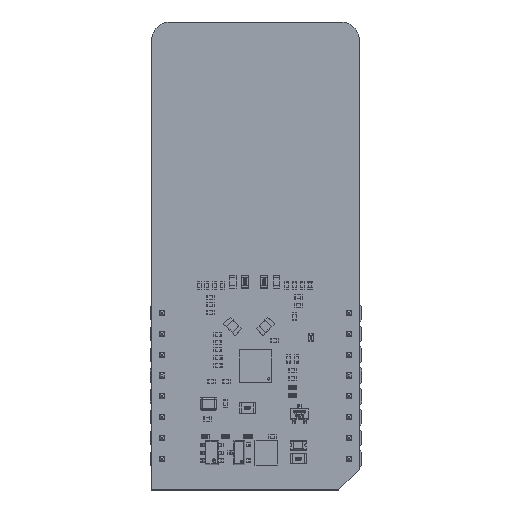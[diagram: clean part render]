
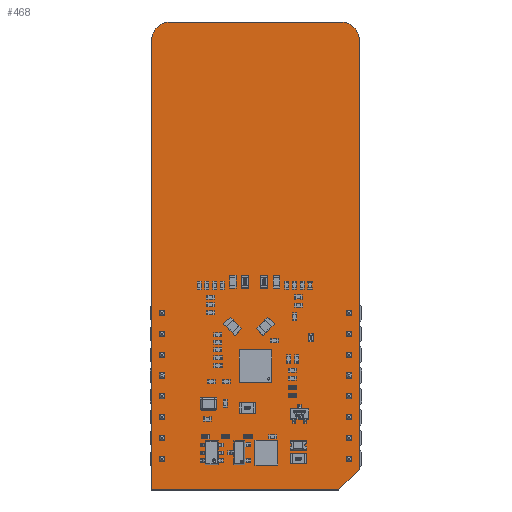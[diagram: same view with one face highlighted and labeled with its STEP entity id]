
A CAD part, top view. The second image highlights one B-rep face of the part: STEP entity #468.
In plain terms, the highlighted planar face has unit normal (0, 0, 1).
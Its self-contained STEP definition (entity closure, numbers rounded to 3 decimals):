
#239 = VERTEX_POINT('',#240);
#240 = CARTESIAN_POINT('',(-1.27,-3.81,0.));
#246 = EDGE_CURVE('',#239,#247,#249,.T.);
#247 = VERTEX_POINT('',#248);
#248 = CARTESIAN_POINT('',(-1.27,51.054,0.));
#249 = LINE('',#250,#251);
#250 = CARTESIAN_POINT('',(-1.27,-3.81,0.));
#251 = VECTOR('',#252,1.);
#252 = DIRECTION('',(0.,1.,0.));
#277 = EDGE_CURVE('',#247,#278,#280,.T.);
#278 = VERTEX_POINT('',#279);
#279 = CARTESIAN_POINT('',(1.016,53.34,0.));
#280 = CIRCLE('',#281,2.288);
#281 = AXIS2_PLACEMENT_3D('',#282,#283,#284);
#282 = CARTESIAN_POINT('',(1.018,51.052,0.));
#283 = DIRECTION('',(0.,0.,-1.));
#284 = DIRECTION('',(-1.,0.001,0.));
#310 = EDGE_CURVE('',#278,#311,#313,.T.);
#311 = VERTEX_POINT('',#312);
#312 = CARTESIAN_POINT('',(21.844,53.34,0.));
#313 = LINE('',#314,#315);
#314 = CARTESIAN_POINT('',(1.016,53.34,0.));
#315 = VECTOR('',#316,1.);
#316 = DIRECTION('',(1.,0.,0.));
#341 = EDGE_CURVE('',#311,#342,#344,.T.);
#342 = VERTEX_POINT('',#343);
#343 = CARTESIAN_POINT('',(24.13,51.054,0.));
#344 = CIRCLE('',#345,2.288);
#345 = AXIS2_PLACEMENT_3D('',#346,#347,#348);
#346 = CARTESIAN_POINT('',(21.842,51.052,0.));
#347 = DIRECTION('',(0.,0.,-1.));
#348 = DIRECTION('',(0.001,1.,0.));
#374 = EDGE_CURVE('',#342,#375,#377,.T.);
#375 = VERTEX_POINT('',#376);
#376 = CARTESIAN_POINT('',(24.13,-1.27,0.));
#377 = LINE('',#378,#379);
#378 = CARTESIAN_POINT('',(24.13,51.054,0.));
#379 = VECTOR('',#380,1.);
#380 = DIRECTION('',(0.,-1.,0.));
#405 = EDGE_CURVE('',#375,#406,#408,.T.);
#406 = VERTEX_POINT('',#407);
#407 = CARTESIAN_POINT('',(21.59,-3.81,0.));
#408 = LINE('',#409,#410);
#409 = CARTESIAN_POINT('',(24.13,-1.27,0.));
#410 = VECTOR('',#411,1.);
#411 = DIRECTION('',(-0.707,-0.707,0.));
#436 = EDGE_CURVE('',#406,#239,#437,.T.);
#437 = LINE('',#438,#439);
#438 = CARTESIAN_POINT('',(21.59,-3.81,0.));
#439 = VECTOR('',#440,1.);
#440 = DIRECTION('',(-1.,0.,0.));
#468 = ADVANCED_FACE('',(#469),#478,.T.);
#469 = FACE_BOUND('',#470,.F.);
#470 = EDGE_LOOP('',(#471,#472,#473,#474,#475,#476,#477));
#471 = ORIENTED_EDGE('',*,*,#246,.T.);
#472 = ORIENTED_EDGE('',*,*,#277,.T.);
#473 = ORIENTED_EDGE('',*,*,#310,.T.);
#474 = ORIENTED_EDGE('',*,*,#341,.T.);
#475 = ORIENTED_EDGE('',*,*,#374,.T.);
#476 = ORIENTED_EDGE('',*,*,#405,.T.);
#477 = ORIENTED_EDGE('',*,*,#436,.T.);
#478 = PLANE('',#479);
#479 = AXIS2_PLACEMENT_3D('',#480,#481,#482);
#480 = CARTESIAN_POINT('',(-1.27,-3.81,0.));
#481 = DIRECTION('',(0.,0.,1.));
#482 = DIRECTION('',(1.,0.,0.));
